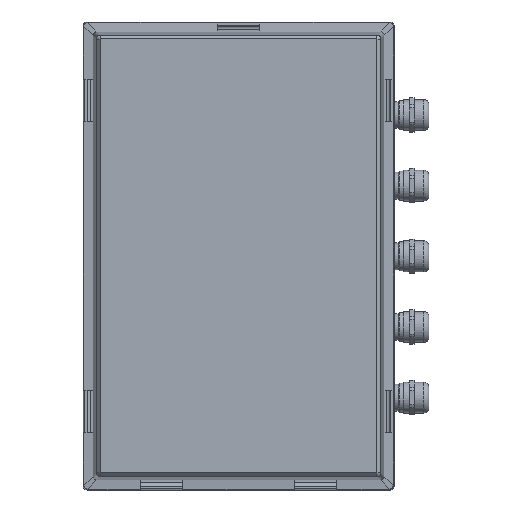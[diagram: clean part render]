
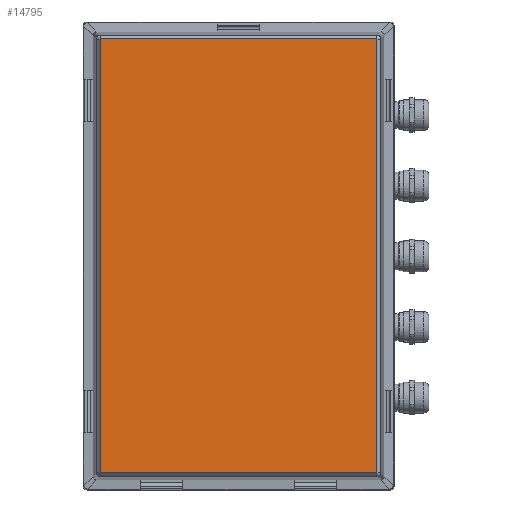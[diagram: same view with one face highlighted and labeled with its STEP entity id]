
A CAD part, top view. The second image highlights one B-rep face of the part: STEP entity #14795.
In plain terms, the highlighted planar face has unit normal (0, 0, 1).
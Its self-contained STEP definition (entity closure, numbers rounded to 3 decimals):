
#14720=CARTESIAN_POINT('',(-8.647,204.318,134.46));
#14721=DIRECTION('',(0.0,0.0,-1.0));
#14722=DIRECTION('',(-1.0,0.0,0.0));
#14723=AXIS2_PLACEMENT_3D('',#14720,#14721,#14722);
#14724=PLANE('',#14723);
#14725=CARTESIAN_POINT('',(-19.664,193.46,134.46));
#14726=VERTEX_POINT('',#14725);
#14727=CARTESIAN_POINT('',(-195.63,193.46,134.46));
#14728=VERTEX_POINT('',#14727);
#14729=CARTESIAN_POINT('',(-19.664,193.46,134.46));
#14730=DIRECTION('',(-1.0,0.0,0.0));
#14731=VECTOR('',#14730,175.966);
#14732=LINE('',#14729,#14731);
#14733=EDGE_CURVE('',#14726,#14728,#14732,.T.);
#14734=ORIENTED_EDGE('',*,*,#14733,.T.);
#14735=CARTESIAN_POINT('',(-195.789,193.301,134.46));
#14736=VERTEX_POINT('',#14735);
#14737=CARTESIAN_POINT('',(-195.63,193.46,134.46));
#14738=CARTESIAN_POINT('',(-195.715,193.462,134.46));
#14739=CARTESIAN_POINT('',(-195.791,193.386,134.46));
#14740=CARTESIAN_POINT('',(-195.789,193.301,134.46));
#14741=B_SPLINE_CURVE_WITH_KNOTS('',3,(#14737,#14738,#14739,#14740),.UNSPECIFIED.,.F.,.U.,(4,4),(-1.0,0.0),.UNSPECIFIED.);
#14742=EDGE_CURVE('',#14728,#14736,#14741,.T.);
#14743=ORIENTED_EDGE('',*,*,#14742,.T.);
#14744=CARTESIAN_POINT('',(-195.789,-82.665,134.46));
#14745=VERTEX_POINT('',#14744);
#14746=CARTESIAN_POINT('',(-195.789,193.301,134.46));
#14747=DIRECTION('',(0.0,-1.0,0.0));
#14748=VECTOR('',#14747,275.966);
#14749=LINE('',#14746,#14748);
#14750=EDGE_CURVE('',#14736,#14745,#14749,.T.);
#14751=ORIENTED_EDGE('',*,*,#14750,.T.);
#14752=CARTESIAN_POINT('',(-195.63,-82.824,134.46));
#14753=VERTEX_POINT('',#14752);
#14754=CARTESIAN_POINT('',(-195.789,-82.665,134.46));
#14755=CARTESIAN_POINT('',(-195.791,-82.75,134.46));
#14756=CARTESIAN_POINT('',(-195.715,-82.826,134.46));
#14757=CARTESIAN_POINT('',(-195.63,-82.824,134.46));
#14758=B_SPLINE_CURVE_WITH_KNOTS('',3,(#14754,#14755,#14756,#14757),.UNSPECIFIED.,.F.,.U.,(4,4),(-1.0,0.0),.UNSPECIFIED.);
#14759=EDGE_CURVE('',#14745,#14753,#14758,.T.);
#14760=ORIENTED_EDGE('',*,*,#14759,.T.);
#14761=CARTESIAN_POINT('',(-19.664,-82.824,134.46));
#14762=VERTEX_POINT('',#14761);
#14763=CARTESIAN_POINT('',(-195.63,-82.824,134.46));
#14764=DIRECTION('',(1.0,0.0,0.0));
#14765=VECTOR('',#14764,175.966);
#14766=LINE('',#14763,#14765);
#14767=EDGE_CURVE('',#14753,#14762,#14766,.T.);
#14768=ORIENTED_EDGE('',*,*,#14767,.T.);
#14769=CARTESIAN_POINT('',(-19.505,-82.665,134.46));
#14770=VERTEX_POINT('',#14769);
#14771=CARTESIAN_POINT('',(-19.664,-82.824,134.46));
#14772=CARTESIAN_POINT('',(-19.579,-82.826,134.46));
#14773=CARTESIAN_POINT('',(-19.503,-82.75,134.46));
#14774=CARTESIAN_POINT('',(-19.505,-82.665,134.46));
#14775=B_SPLINE_CURVE_WITH_KNOTS('',3,(#14771,#14772,#14773,#14774),.UNSPECIFIED.,.F.,.U.,(4,4),(-1.0,0.0),.UNSPECIFIED.);
#14776=EDGE_CURVE('',#14762,#14770,#14775,.T.);
#14777=ORIENTED_EDGE('',*,*,#14776,.T.);
#14778=CARTESIAN_POINT('',(-19.505,193.301,134.46));
#14779=VERTEX_POINT('',#14778);
#14780=CARTESIAN_POINT('',(-19.505,-82.665,134.46));
#14781=DIRECTION('',(0.0,1.0,0.0));
#14782=VECTOR('',#14781,275.966);
#14783=LINE('',#14780,#14782);
#14784=EDGE_CURVE('',#14770,#14779,#14783,.T.);
#14785=ORIENTED_EDGE('',*,*,#14784,.T.);
#14786=CARTESIAN_POINT('',(-19.505,193.301,134.46));
#14787=CARTESIAN_POINT('',(-19.503,193.386,134.46));
#14788=CARTESIAN_POINT('',(-19.579,193.462,134.46));
#14789=CARTESIAN_POINT('',(-19.664,193.46,134.46));
#14790=B_SPLINE_CURVE_WITH_KNOTS('',3,(#14786,#14787,#14788,#14789),.UNSPECIFIED.,.F.,.U.,(4,4),(-1.0,0.0),.UNSPECIFIED.);
#14791=EDGE_CURVE('',#14779,#14726,#14790,.T.);
#14792=ORIENTED_EDGE('',*,*,#14791,.T.);
#14793=EDGE_LOOP('',(#14734,#14743,#14751,#14760,#14768,#14777,#14785,#14792));
#14794=FACE_OUTER_BOUND('',#14793,.T.);
#14795=ADVANCED_FACE('',(#14794),#14724,.F.);
